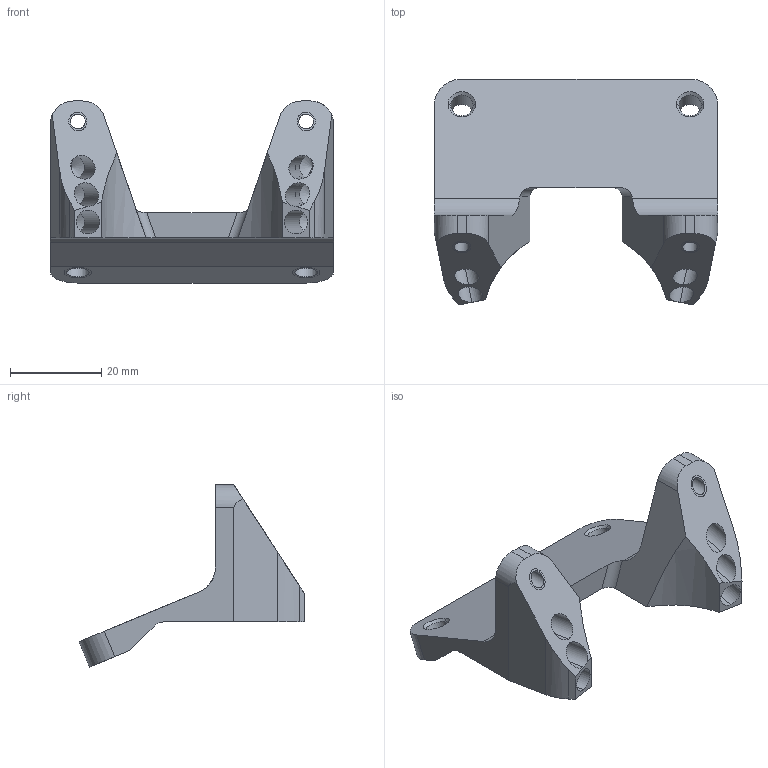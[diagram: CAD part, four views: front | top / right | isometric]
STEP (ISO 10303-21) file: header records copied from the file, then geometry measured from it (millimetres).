
FILE_DESCRIPTION(/* description */ ('(C) Elphel, Inc. 2026. Licensed under CERN OHL v.1.1 or later, see http://ohwr.org/cernohl'),/* implementation_level */ '2;1');
FILE_NAME(/* name */ '0393-18-80.stp',/* time_stamp */ '2026-08-12T14:46:33-07:00',/* author */ (''),/* organization */ ('Elphel, Inc'),/* preprocessor_version */ 'VariCAD 2020-1.02',/* originating_system */ 'VariCAD 2020-1.02; kernel version (20180118)',/* authorisation */ '');
FILE_SCHEMA(('AUTOMOTIVE_DESIGN'));
Length unit declared in the file: millimetre
Products named in the file (2): 0393-18-80
Assembly tree (1 placements, depth 2):
  0393-18-80
    0393-18-80
Bounding box: 62 x 49.5 x 39.88 mm (x, y, z)
Volume: 18094.7 mm3; surface area: 9703.3 mm2
Topology: 1 solids, 1 shells, 85 faces, 231 edges, 144 vertices
Faces by surface type: cylinder 41, plane 24, cone 20
Entity records: 3168 total; most frequent: CARTESIAN_POINT 898, ORIENTED_EDGE 438, DIRECTION 423, EDGE_CURVE 219, AXIS2_PLACEMENT_3D 155, VERTEX_POINT 144, LINE 113, VECTOR 113
